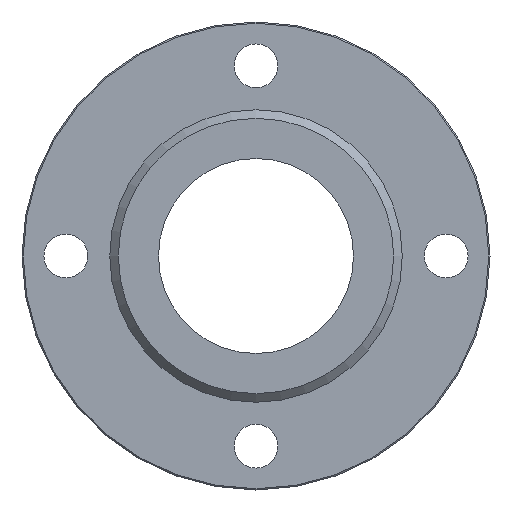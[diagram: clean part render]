
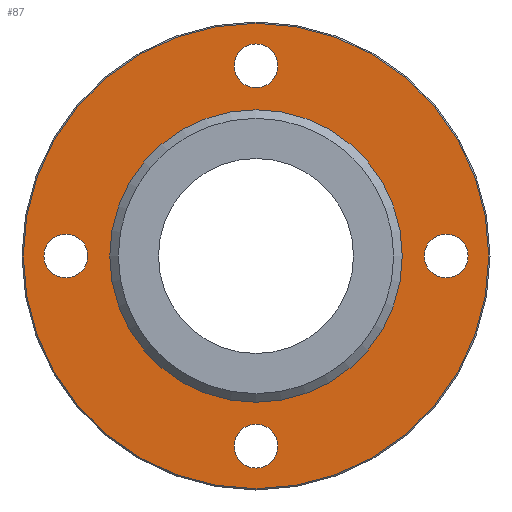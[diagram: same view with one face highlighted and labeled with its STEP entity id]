
A CAD part, left-side view. The second image highlights one B-rep face of the part: STEP entity #87.
In plain terms, the highlighted planar face has unit normal (-1, 0, 0).
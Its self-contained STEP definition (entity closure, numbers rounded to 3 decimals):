
#87=ADVANCED_FACE('',(#140,#141,#142,#143,#144,#145),#146,.F.);
#140=FACE_OUTER_BOUND('',#220,.T.);
#141=FACE_BOUND('',#221,.T.);
#142=FACE_BOUND('',#222,.T.);
#143=FACE_BOUND('',#223,.T.);
#144=FACE_BOUND('',#224,.T.);
#145=FACE_BOUND('',#225,.T.);
#146=PLANE('',#226);
#220=EDGE_LOOP('',(#324));
#221=EDGE_LOOP('',(#325));
#222=EDGE_LOOP('',(#326));
#223=EDGE_LOOP('',(#327));
#224=EDGE_LOOP('',(#328));
#225=EDGE_LOOP('',(#329));
#226=AXIS2_PLACEMENT_3D('',#330,#331,#332);
#324=ORIENTED_EDGE('',*,*,#405,.T.);
#325=ORIENTED_EDGE('',*,*,#406,.T.);
#326=ORIENTED_EDGE('',*,*,#407,.T.);
#327=ORIENTED_EDGE('',*,*,#408,.T.);
#328=ORIENTED_EDGE('',*,*,#409,.T.);
#329=ORIENTED_EDGE('',*,*,#396,.T.);
#330=CARTESIAN_POINT('',(-18.0,47.746,0.0));
#331=DIRECTION('',(1.0,0.0,0.0));
#332=DIRECTION('',(0.0,0.0,-1.0));
#396=EDGE_CURVE('',#432,#432,#433,.T.);
#405=EDGE_CURVE('',#450,#450,#451,.T.);
#406=EDGE_CURVE('',#452,#452,#453,.T.);
#407=EDGE_CURVE('',#454,#454,#455,.T.);
#408=EDGE_CURVE('',#456,#456,#457,.T.);
#409=EDGE_CURVE('',#458,#458,#459,.T.);
#432=VERTEX_POINT('',#488);
#433=CIRCLE('',#489,30.0);
#450=VERTEX_POINT('',#506);
#451=CIRCLE('',#507,47.746);
#452=VERTEX_POINT('',#508);
#453=CIRCLE('',#509,4.5);
#454=VERTEX_POINT('',#510);
#455=CIRCLE('',#511,4.5);
#456=VERTEX_POINT('',#512);
#457=CIRCLE('',#513,4.5);
#458=VERTEX_POINT('',#514);
#459=CIRCLE('',#515,4.5);
#488=CARTESIAN_POINT('',(-18.0,0.,-30.0));
#489=AXIS2_PLACEMENT_3D('',#552,#553,#554);
#506=CARTESIAN_POINT('',(-18.0,0.,47.746));
#507=AXIS2_PLACEMENT_3D('',#579,#580,#581);
#508=CARTESIAN_POINT('',(-18.0,39.0,-4.5));
#509=AXIS2_PLACEMENT_3D('',#582,#583,#584);
#510=CARTESIAN_POINT('',(-18.0,0.0,34.5));
#511=AXIS2_PLACEMENT_3D('',#585,#586,#587);
#512=CARTESIAN_POINT('',(-18.0,-39.0,-4.5));
#513=AXIS2_PLACEMENT_3D('',#588,#589,#590);
#514=CARTESIAN_POINT('',(-18.0,0.,-43.5));
#515=AXIS2_PLACEMENT_3D('',#591,#592,#593);
#552=CARTESIAN_POINT('',(-18.0,0.,0.0));
#553=DIRECTION('',(1.0,0.0,0.0));
#554=DIRECTION('',(0.0,0.0,-1.0));
#579=CARTESIAN_POINT('',(-18.0,0.,0.0));
#580=DIRECTION('',(-1.0,0.0,0.0));
#581=DIRECTION('',(0.0,0.0,1.0));
#582=CARTESIAN_POINT('',(-18.0,39.0,0.0));
#583=DIRECTION('',(1.0,0.0,0.0));
#584=DIRECTION('',(0.0,0.0,-1.0));
#585=CARTESIAN_POINT('',(-18.0,0.0,39.0));
#586=DIRECTION('',(1.0,0.0,0.0));
#587=DIRECTION('',(0.0,0.0,-1.0));
#588=CARTESIAN_POINT('',(-18.0,-39.0,0.));
#589=DIRECTION('',(1.0,0.0,0.0));
#590=DIRECTION('',(0.0,0.0,-1.0));
#591=CARTESIAN_POINT('',(-18.0,0.,-39.0));
#592=DIRECTION('',(1.0,0.0,0.0));
#593=DIRECTION('',(0.0,0.0,-1.0));
